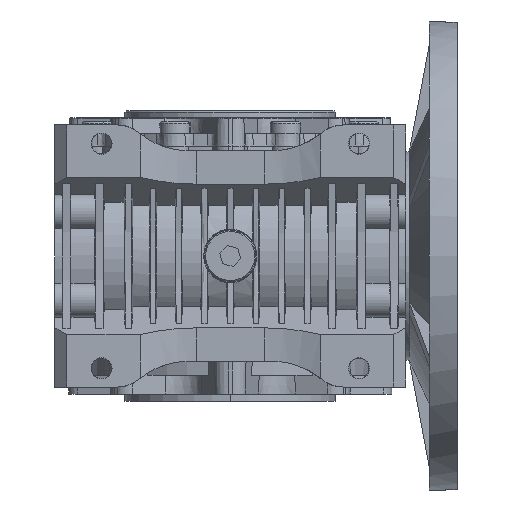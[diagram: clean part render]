
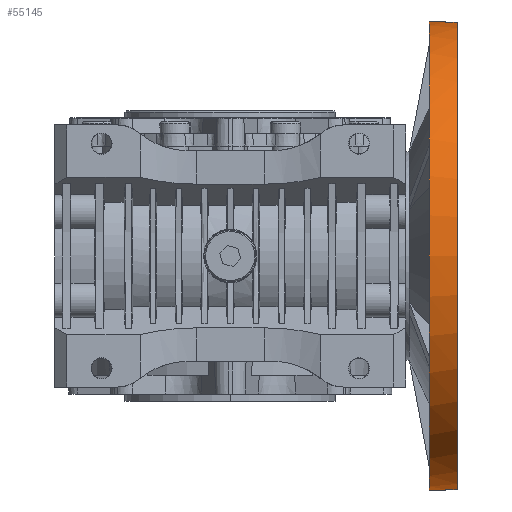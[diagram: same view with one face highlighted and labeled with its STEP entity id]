
A CAD part, front view. The second image highlights one B-rep face of the part: STEP entity #55145.
In plain terms, the highlighted cylindrical face has radius 100 mm (diameter 200 mm), a partial arc.
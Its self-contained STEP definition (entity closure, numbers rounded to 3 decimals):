
#144 = DIRECTION ( 'NONE',  ( 0., 0., -1. ) ) ;
#2446 = DIRECTION ( 'NONE',  ( 1., 0., 0. ) ) ;
#3387 = CARTESIAN_POINT ( 'NONE',  ( 85., -63., 0. ) ) ;
#3640 = AXIS2_PLACEMENT_3D ( 'NONE', #60403, #41620, #26932 ) ;
#4352 = VECTOR ( 'NONE', #5761, 1000. ) ;
#4557 = CARTESIAN_POINT ( 'NONE',  ( 97., -69., 99.82 ) ) ;
#5098 = VERTEX_POINT ( 'NONE', #85102 ) ;
#5636 = CARTESIAN_POINT ( 'NONE',  ( 97., -63., 0. ) ) ;
#5761 = DIRECTION ( 'NONE',  ( 1., 0., 0. ) ) ;
#6839 = DIRECTION ( 'NONE',  ( 1., 0., 0. ) ) ;
#7413 = FACE_OUTER_BOUND ( 'NONE', #24490, .T. ) ;
#9500 = VERTEX_POINT ( 'NONE', #83571 ) ;
#9935 = EDGE_CURVE ( 'NONE', #9500, #76026, #75912, .T. ) ;
#12085 = ORIENTED_EDGE ( 'NONE', *, *, #27860, .F. ) ;
#15957 = ORIENTED_EDGE ( 'NONE', *, *, #56184, .T. ) ;
#17437 = VECTOR ( 'NONE', #51085, 1000. ) ;
#19085 = CARTESIAN_POINT ( 'NONE',  ( 187.177, -63., 100. ) ) ;
#20498 = ORIENTED_EDGE ( 'NONE', *, *, #9935, .T. ) ;
#21125 = CARTESIAN_POINT ( 'NONE',  ( 187.177, -69., -99.82 ) ) ;
#22198 = CIRCLE ( 'NONE', #27826, 100. ) ;
#22850 = CARTESIAN_POINT ( 'NONE',  ( 187.177, -63., -100. ) ) ;
#23793 = DIRECTION ( 'NONE',  ( 1., 0., 0. ) ) ;
#24001 = DIRECTION ( 'NONE',  ( 0., 0., 1. ) ) ;
#24490 = EDGE_LOOP ( 'NONE', ( #68797, #31412, #20498, #15957, #26180, #12085, #41194, #39479 ) ) ;
#26180 = ORIENTED_EDGE ( 'NONE', *, *, #86274, .F. ) ;
#26932 = DIRECTION ( 'NONE',  ( 0., 0., -1. ) ) ;
#27826 = AXIS2_PLACEMENT_3D ( 'NONE', #30675, #65426, #24001 ) ;
#27860 = EDGE_CURVE ( 'NONE', #46790, #68463, #32978, .T. ) ;
#30675 = CARTESIAN_POINT ( 'NONE',  ( 92., -63., 0. ) ) ;
#31412 = ORIENTED_EDGE ( 'NONE', *, *, #63025, .T. ) ;
#32978 = CIRCLE ( 'NONE', #41477, 100. ) ;
#36140 = CARTESIAN_POINT ( 'NONE',  ( 92., -63., -100. ) ) ;
#37522 = AXIS2_PLACEMENT_3D ( 'NONE', #82066, #6839, #144 ) ;
#39479 = ORIENTED_EDGE ( 'NONE', *, *, #46122, .F. ) ;
#39905 = CIRCLE ( 'NONE', #41297, 100. ) ;
#41194 = ORIENTED_EDGE ( 'NONE', *, *, #42823, .F. ) ;
#41297 = AXIS2_PLACEMENT_3D ( 'NONE', #3387, #23793, #50968 ) ;
#41477 = AXIS2_PLACEMENT_3D ( 'NONE', #5636, #59478, #72392 ) ;
#41580 = LINE ( 'NONE', #21125, #72058 ) ;
#41620 = DIRECTION ( 'NONE',  ( 1., 0., 0. ) ) ;
#42493 = CARTESIAN_POINT ( 'NONE',  ( 92., -69., 99.82 ) ) ;
#42823 = EDGE_CURVE ( 'NONE', #57512, #46790, #50221, .T. ) ;
#45512 = VECTOR ( 'NONE', #2446, 1000. ) ;
#45945 = VERTEX_POINT ( 'NONE', #76041 ) ;
#46122 = EDGE_CURVE ( 'NONE', #5098, #57512, #75987, .T. ) ;
#46790 = VERTEX_POINT ( 'NONE', #4557 ) ;
#50221 = LINE ( 'NONE', #69816, #17437 ) ;
#50968 = DIRECTION ( 'NONE',  ( 0., 0., -1. ) ) ;
#51085 = DIRECTION ( 'NONE',  ( 1., 0., 0. ) ) ;
#55145 = ADVANCED_FACE ( 'NONE', ( #7413 ), #88014, .T. ) ;
#56184 = EDGE_CURVE ( 'NONE', #76026, #73605, #22198, .T. ) ;
#57512 = VERTEX_POINT ( 'NONE', #42493 ) ;
#59478 = DIRECTION ( 'NONE',  ( 1., 0., 0. ) ) ;
#60403 = CARTESIAN_POINT ( 'NONE',  ( 187.177, -63., 0. ) ) ;
#60796 = DIRECTION ( 'NONE',  ( -1., 0., 0. ) ) ;
#61213 = EDGE_CURVE ( 'NONE', #45945, #5098, #73838, .T. ) ;
#63025 = EDGE_CURVE ( 'NONE', #45945, #9500, #39905, .T. ) ;
#65426 = DIRECTION ( 'NONE',  ( -1., 0., 0. ) ) ;
#68463 = VERTEX_POINT ( 'NONE', #75635 ) ;
#68797 = ORIENTED_EDGE ( 'NONE', *, *, #61213, .F. ) ;
#69816 = CARTESIAN_POINT ( 'NONE',  ( 187.177, -69., 99.82 ) ) ;
#71224 = CARTESIAN_POINT ( 'NONE',  ( 92., -69., -99.82 ) ) ;
#72058 = VECTOR ( 'NONE', #60796, 1000. ) ;
#72392 = DIRECTION ( 'NONE',  ( 0., 0., -1. ) ) ;
#73605 = VERTEX_POINT ( 'NONE', #71224 ) ;
#73838 = LINE ( 'NONE', #19085, #4352 ) ;
#75635 = CARTESIAN_POINT ( 'NONE',  ( 97., -69., -99.82 ) ) ;
#75912 = LINE ( 'NONE', #22850, #45512 ) ;
#75987 = CIRCLE ( 'NONE', #37522, 100. ) ;
#76026 = VERTEX_POINT ( 'NONE', #36140 ) ;
#76041 = CARTESIAN_POINT ( 'NONE',  ( 85., -63., 100. ) ) ;
#82066 = CARTESIAN_POINT ( 'NONE',  ( 92., -63., 0. ) ) ;
#83571 = CARTESIAN_POINT ( 'NONE',  ( 85., -63., -100. ) ) ;
#85102 = CARTESIAN_POINT ( 'NONE',  ( 92., -63., 100. ) ) ;
#86274 = EDGE_CURVE ( 'NONE', #68463, #73605, #41580, .T. ) ;
#88014 = CYLINDRICAL_SURFACE ( 'NONE', #3640, 100. ) ;
